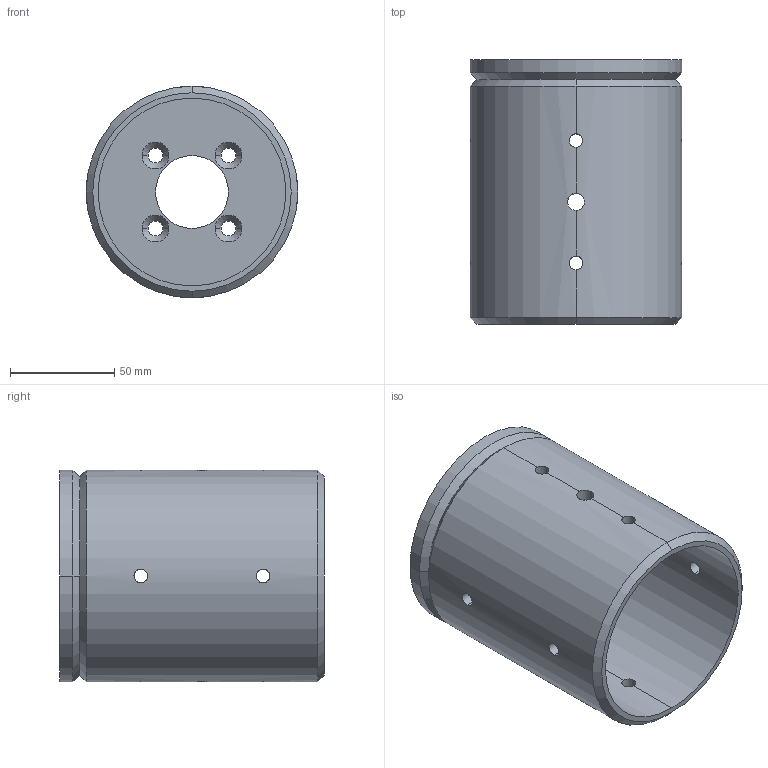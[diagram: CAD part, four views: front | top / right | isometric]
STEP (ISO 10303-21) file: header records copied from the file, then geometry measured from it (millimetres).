
FILE_DESCRIPTION (( 'STEP AP214' ), '1' );
FILE_NAME ('vhdpost.STEP', '2009-04-01T18:18:23', ( '' ), ( '' ), 'SwSTEP 2.0', 'SolidWorks 2007', '' );
FILE_SCHEMA (( 'AUTOMOTIVE_DESIGN' ));
Length unit declared in the file: inch
Products named in the file (4): 87938906; 87938902; 87934301; vhdpost
Assembly tree (3 placements, depth 3):
  vhdpost
    87938906
      87934301
      87938902
Bounding box: 101.6 x 127 x 101.6 mm (x, y, z)
Volume: 260417.6 mm3; surface area: 91799 mm2
Topology: 2 solids, 2 shells, 65 faces, 194 edges, 122 vertices
Faces by surface type: cylinder 46, cone 14, plane 5
Entity records: 3752 total; most frequent: CARTESIAN_POINT 1700, ORIENTED_EDGE 388, DIRECTION 332, EDGE_CURVE 194, AXIS2_PLACEMENT_3D 130, VERTEX_POINT 122, EDGE_LOOP 86, VECTOR 72
